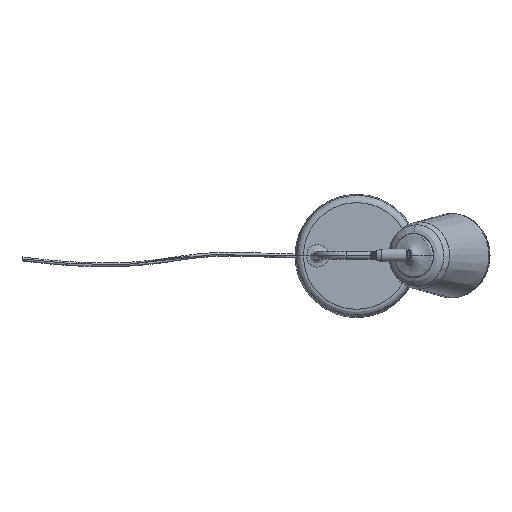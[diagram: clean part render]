
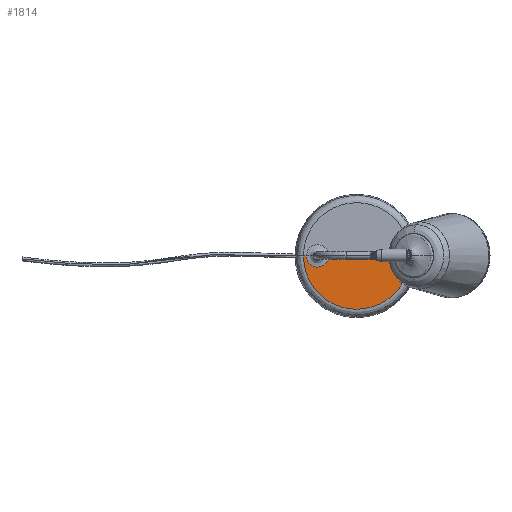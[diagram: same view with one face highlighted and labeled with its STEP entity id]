
A CAD part, top view. The second image highlights one B-rep face of the part: STEP entity #1814.
In plain terms, the highlighted planar face has unit normal (0, 0, 1).
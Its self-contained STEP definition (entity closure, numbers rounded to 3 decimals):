
#463=B_SPLINE_CURVE_WITH_KNOTS('',1,(#15405,#15406),.UNSPECIFIED.,.F.,.F.,
(2,2),(0.,14.18),.UNSPECIFIED.);
#464=B_SPLINE_CURVE_WITH_KNOTS('',1,(#15407,#15408),.UNSPECIFIED.,.F.,.F.,
(2,2),(0.,52.623),.UNSPECIFIED.);
#465=B_SPLINE_CURVE_WITH_KNOTS('',1,(#15409,#15410),.UNSPECIFIED.,.F.,.F.,
(2,2),(-43.243,0.),.UNSPECIFIED.);
#466=B_SPLINE_CURVE_WITH_KNOTS('',1,(#15411,#15412),.UNSPECIFIED.,.F.,.F.,
(2,2),(-4.5,0.),.UNSPECIFIED.);
#1814=ADVANCED_FACE('',(#2370),#10543,.T.);
#2370=FACE_OUTER_BOUND('',#2953,.T.);
#2953=EDGE_LOOP('',(#3860,#3861,#3862,#3863,#3864,#3865,#3866));
#3860=ORIENTED_EDGE('',*,*,#7195,.T.);
#3861=ORIENTED_EDGE('',*,*,#7190,.F.);
#3862=ORIENTED_EDGE('',*,*,#7244,.T.);
#3863=ORIENTED_EDGE('',*,*,#7191,.F.);
#3864=ORIENTED_EDGE('',*,*,#7192,.F.);
#3865=ORIENTED_EDGE('',*,*,#7187,.T.);
#3866=ORIENTED_EDGE('',*,*,#7193,.F.);
#7187=EDGE_CURVE('',#9414,#9411,#8866,.T.);
#7190=EDGE_CURVE('',#9415,#9416,#463,.T.);
#7191=EDGE_CURVE('',#9418,#9417,#464,.T.);
#7192=EDGE_CURVE('',#9414,#9418,#465,.T.);
#7193=EDGE_CURVE('',#9419,#9411,#466,.T.);
#7195=EDGE_CURVE('',#9419,#9416,#8870,.T.);
#7244=EDGE_CURVE('',#9415,#9417,#8893,.T.);
#8866=(
BOUNDED_CURVE()
B_SPLINE_CURVE(2,(#15390,#15391,#15392,#15393,#15394),.UNSPECIFIED.,.F.,
 .F.)
B_SPLINE_CURVE_WITH_KNOTS((3,2,3),(-53.972,-26.986,
0.),.UNSPECIFIED.)
CURVE()
GEOMETRIC_REPRESENTATION_ITEM()
RATIONAL_B_SPLINE_CURVE((1.,0.707,1.,0.707,1.))
REPRESENTATION_ITEM('')
);
#8870=(
BOUNDED_CURVE()
B_SPLINE_CURVE(2,(#15418,#15419,#15420,#15421,#15422),.UNSPECIFIED.,.F.,
 .F.)
B_SPLINE_CURVE_WITH_KNOTS((3,2,3),(-257.933,-128.966,
0.),.UNSPECIFIED.)
CURVE()
GEOMETRIC_REPRESENTATION_ITEM()
RATIONAL_B_SPLINE_CURVE((1.,0.707,1.,0.707,1.))
REPRESENTATION_ITEM('')
);
#8893=(
BOUNDED_CURVE()
B_SPLINE_CURVE(2,(#15613,#15614,#15615,#15616,#15617),.UNSPECIFIED.,.F.,
 .F.)
B_SPLINE_CURVE_WITH_KNOTS((3,2,3),(-24.033,-12.017,0.),
 .UNSPECIFIED.)
CURVE()
GEOMETRIC_REPRESENTATION_ITEM()
RATIONAL_B_SPLINE_CURVE((1.,0.707,1.,0.707,1.))
REPRESENTATION_ITEM('')
);
#9411=VERTEX_POINT('',#15213);
#9414=VERTEX_POINT('',#15216);
#9415=VERTEX_POINT('',#15217);
#9416=VERTEX_POINT('',#15218);
#9417=VERTEX_POINT('',#15219);
#9418=VERTEX_POINT('',#15220);
#9419=VERTEX_POINT('',#15221);
#10543=PLANE('',#11265);
#11265=AXIS2_PLACEMENT_3D('',#14094,#11448,$);
#11448=DIRECTION('',(0.,0.,1.));
#14094=CARTESIAN_POINT('',(2609.368,-451.68,932.358));
#15213=CARTESIAN_POINT('',(2432.917,-460.215,932.358));
#15216=CARTESIAN_POINT('',(2467.277,-460.215,932.358));
#15217=CARTESIAN_POINT('',(2578.443,-460.215,932.358));
#15218=CARTESIAN_POINT('',(2592.622,-460.215,932.358));
#15219=CARTESIAN_POINT('',(2563.143,-460.215,932.358));
#15220=CARTESIAN_POINT('',(2510.52,-460.215,932.358));
#15221=CARTESIAN_POINT('',(2428.417,-460.215,932.358));
#15390=CARTESIAN_POINT('',(2467.277,-460.215,932.358));
#15391=CARTESIAN_POINT('',(2467.277,-477.395,932.358));
#15392=CARTESIAN_POINT('',(2450.097,-477.395,932.358));
#15393=CARTESIAN_POINT('',(2432.917,-477.395,932.358));
#15394=CARTESIAN_POINT('',(2432.917,-460.215,932.358));
#15405=CARTESIAN_POINT('',(2578.443,-460.215,932.358));
#15406=CARTESIAN_POINT('',(2592.622,-460.215,932.358));
#15407=CARTESIAN_POINT('',(2510.52,-460.215,932.358));
#15408=CARTESIAN_POINT('',(2563.143,-460.215,932.358));
#15409=CARTESIAN_POINT('',(2467.277,-460.215,932.358));
#15410=CARTESIAN_POINT('',(2510.52,-460.215,932.358));
#15411=CARTESIAN_POINT('',(2428.417,-460.215,932.358));
#15412=CARTESIAN_POINT('',(2432.917,-460.215,932.358));
#15418=CARTESIAN_POINT('',(2428.417,-460.215,932.358));
#15419=CARTESIAN_POINT('',(2428.417,-542.317,932.358));
#15420=CARTESIAN_POINT('',(2510.52,-542.317,932.358));
#15421=CARTESIAN_POINT('',(2592.622,-542.317,932.358));
#15422=CARTESIAN_POINT('',(2592.622,-460.215,932.358));
#15613=CARTESIAN_POINT('',(2578.443,-460.215,932.358));
#15614=CARTESIAN_POINT('',(2578.443,-467.865,932.358));
#15615=CARTESIAN_POINT('',(2570.793,-467.865,932.358));
#15616=CARTESIAN_POINT('',(2563.143,-467.865,932.358));
#15617=CARTESIAN_POINT('',(2563.143,-460.215,932.358));
